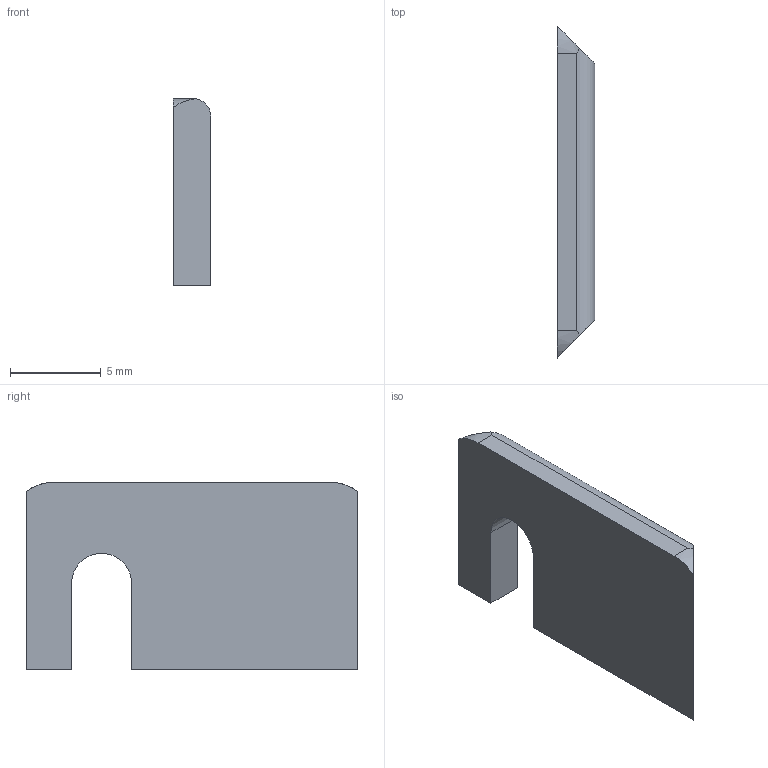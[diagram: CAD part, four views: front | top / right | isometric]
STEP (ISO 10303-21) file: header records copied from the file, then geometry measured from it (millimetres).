
FILE_DESCRIPTION(/* description */ ('STEP AP242 Edition 2','CAx-IF Rec.Pracs.---Representation and Presentation of Product Manufacturing Information (PMI)---4.0---2014-10-13','CAx-IF Rec.Pracs.---3D Tessellated Geometry---0.4---2014-09-14','2;1','CAx-IF Rec.Pracs.---User Defined Attributes---1.5---2016-08-15'),/* implementation_level */ '2;1');
FILE_NAME(/* name */ 'CEC Adapter - Cap',/* time_stamp */ '2026-06-14T23:07:37Z',/* author */ (''),/* organization */ (''),/* preprocessor_version */ 'ST-DEVELOPER v20',/* originating_system */ 'ONSHAPE BY PTC INC, 1.216',/* authorisation */ ' ');
FILE_SCHEMA (('AP242_MANAGED_MODEL_BASED_3D_ENGINEERING_MIM_LF { 1 0 10303 442 3 1 4 }'));
Length unit declared in the file: metre
Products named in the file (1): Cap
Bounding box: 2.07 x 18.25 x 10.3 mm (x, y, z)
Volume: 300.6 mm3; surface area: 436.8 mm2
Topology: 1 solids, 1 shells, 13 faces, 33 edges, 22 vertices
Faces by surface type: plane 9, cylinder 4
Entity records: 419 total; most frequent: CARTESIAN_POINT 75, DIRECTION 67, ORIENTED_EDGE 66, EDGE_CURVE 33, LINE 23, VECTOR 23, VERTEX_POINT 22, AXIS2_PLACEMENT_3D 22
